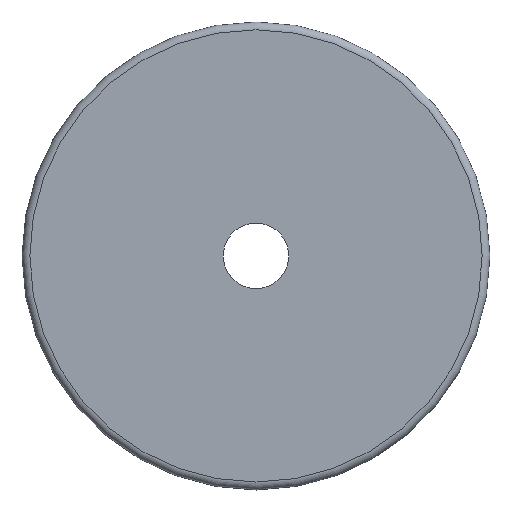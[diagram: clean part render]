
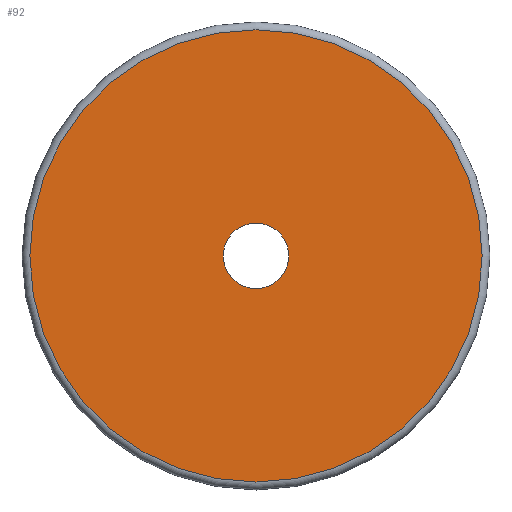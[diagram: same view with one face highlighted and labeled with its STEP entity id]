
A CAD part, top view. The second image highlights one B-rep face of the part: STEP entity #92.
In plain terms, the highlighted planar face has unit normal (0, 0, 1).
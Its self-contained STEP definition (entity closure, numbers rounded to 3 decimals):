
#4 = DIRECTION ( 'NONE',  ( 0., 0., 1. ) ) ;
#14 = EDGE_LOOP ( 'NONE', ( #185 ) ) ;
#16 = EDGE_LOOP ( 'NONE', ( #175 ) ) ;
#21 = DIRECTION ( 'NONE',  ( 1., 0., 0. ) ) ;
#24 = AXIS2_PLACEMENT_3D ( 'NONE', #65, #189, #114 ) ;
#25 = EDGE_CURVE ( 'NONE', #194, #194, #147, .T. ) ;
#37 = AXIS2_PLACEMENT_3D ( 'NONE', #153, #163, #21 ) ;
#46 = PLANE ( 'NONE',  #24 ) ;
#65 = CARTESIAN_POINT ( 'NONE',  ( 0., 0., 70. ) ) ;
#92 = ADVANCED_FACE ( 'NONE', ( #160, #145 ), #46, .T. ) ;
#113 = EDGE_CURVE ( 'NONE', #177, #177, #184, .T. ) ;
#114 = DIRECTION ( 'NONE',  ( 1., 0., 0. ) ) ;
#118 = CARTESIAN_POINT ( 'NONE',  ( 145., 0., 70. ) ) ;
#142 = DIRECTION ( 'NONE',  ( 1., 0., 0. ) ) ;
#145 = FACE_OUTER_BOUND ( 'NONE', #14, .T. ) ;
#147 = CIRCLE ( 'NONE', #186, 145. ) ;
#153 = CARTESIAN_POINT ( 'NONE',  ( 0., 0., 70. ) ) ;
#160 = FACE_BOUND ( 'NONE', #16, .T. ) ;
#163 = DIRECTION ( 'NONE',  ( 0., 0., 1. ) ) ;
#174 = CARTESIAN_POINT ( 'NONE',  ( 0., 0., 70. ) ) ;
#175 = ORIENTED_EDGE ( 'NONE', *, *, #113, .F. ) ;
#177 = VERTEX_POINT ( 'NONE', #179 ) ;
#179 = CARTESIAN_POINT ( 'NONE',  ( 21., 0., 70. ) ) ;
#184 = CIRCLE ( 'NONE', #37, 21. ) ;
#185 = ORIENTED_EDGE ( 'NONE', *, *, #25, .T. ) ;
#186 = AXIS2_PLACEMENT_3D ( 'NONE', #174, #4, #142 ) ;
#189 = DIRECTION ( 'NONE',  ( 0., 0., 1. ) ) ;
#194 = VERTEX_POINT ( 'NONE', #118 ) ;
